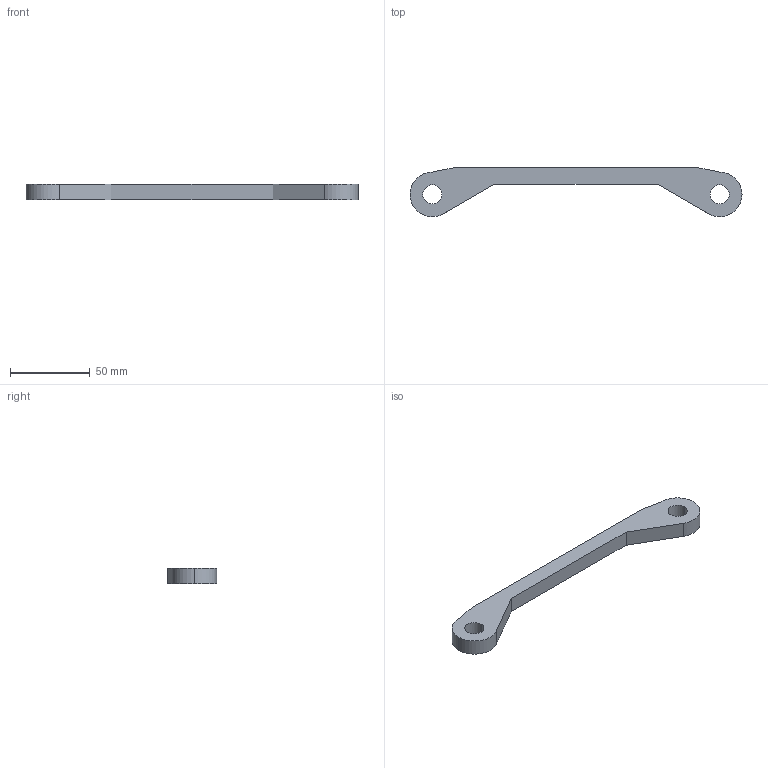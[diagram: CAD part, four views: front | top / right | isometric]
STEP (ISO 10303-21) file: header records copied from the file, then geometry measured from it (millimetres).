
FILE_DESCRIPTION (( 'STEP AP203' ), '1' );
FILE_NAME ('蟀裝傻.STEP', '2025-05-01T07:28:21', ( '' ), ( '' ), 'SwSTEP 2.0', 'SolidWorks 2024', '' );
FILE_SCHEMA (( 'CONFIG_CONTROL_DESIGN' ));
Length unit declared in the file: millimetre
Products named in the file (1): 连杆短
Bounding box: 207.89 x 31 x 10 mm (x, y, z)
Volume: 31145.9 mm3; surface area: 11573 mm2
Topology: 1 solids, 1 shells, 15 faces, 39 edges, 26 vertices
Faces by surface type: plane 8, cylinder 7
Entity records: 552 total; most frequent: DIRECTION 85, CARTESIAN_POINT 81, ORIENTED_EDGE 78, EDGE_CURVE 39, AXIS2_PLACEMENT_3D 30, VERTEX_POINT 26, VECTOR 25, LINE 25
